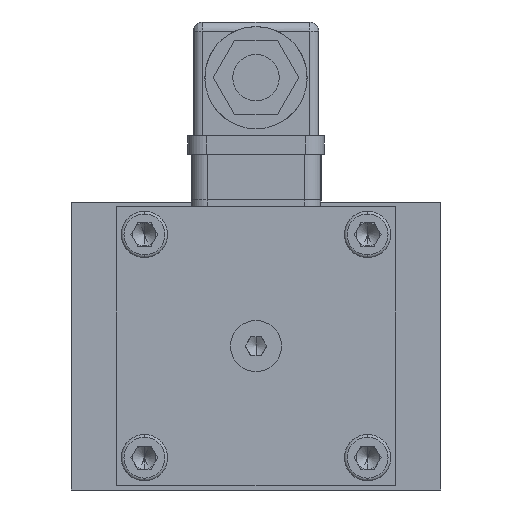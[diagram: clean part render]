
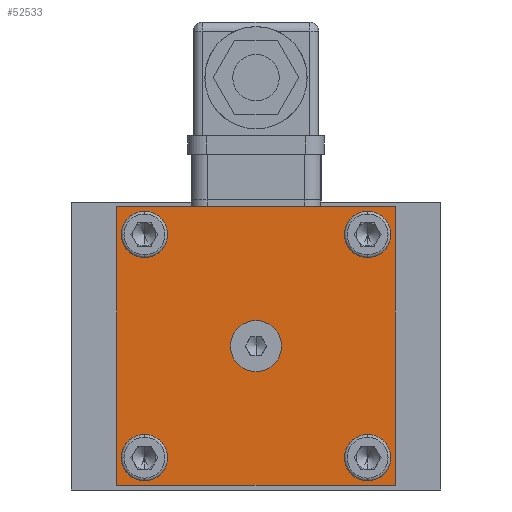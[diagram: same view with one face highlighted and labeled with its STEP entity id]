
A CAD part, left-side view. The second image highlights one B-rep face of the part: STEP entity #52533.
In plain terms, the highlighted planar face has unit normal (-1, 0, 0).
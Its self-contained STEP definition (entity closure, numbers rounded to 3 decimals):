
#887 = VERTEX_POINT ( 'NONE', #23626 ) ;
#977 = LINE ( 'NONE', #20642, #52979 ) ;
#1069 = PLANE ( 'NONE',  #30435 ) ;
#1115 = CARTESIAN_POINT ( 'NONE',  ( -81.2, -24.04, 29.04 ) ) ;
#1245 = DIRECTION ( 'NONE',  ( -1., 0., 0. ) ) ;
#1309 = CIRCLE ( 'NONE', #29121, 5. ) ;
#1677 = DIRECTION ( 'NONE',  ( 0., 0., 1. ) ) ;
#1744 = DIRECTION ( 'NONE',  ( -1., 0., 0. ) ) ;
#1845 = CARTESIAN_POINT ( 'NONE',  ( -81.2, 24.04, 24.04 ) ) ;
#2092 = ORIENTED_EDGE ( 'NONE', *, *, #49094, .F. ) ;
#2548 = CARTESIAN_POINT ( 'NONE',  ( -81.2, 24.04, -24.04 ) ) ;
#4078 = EDGE_CURVE ( 'NONE', #24456, #25340, #11782, .T. ) ;
#4896 = VERTEX_POINT ( 'NONE', #44130 ) ;
#5622 = CARTESIAN_POINT ( 'NONE',  ( -81.2, 30., 30. ) ) ;
#6717 = ORIENTED_EDGE ( 'NONE', *, *, #26818, .F. ) ;
#7758 = VERTEX_POINT ( 'NONE', #17593 ) ;
#7973 = DIRECTION ( 'NONE',  ( 0., 0., -1. ) ) ;
#8151 = DIRECTION ( 'NONE',  ( 0., 0., 1. ) ) ;
#8856 = VERTEX_POINT ( 'NONE', #1115 ) ;
#8898 = FACE_OUTER_BOUND ( 'NONE', #39221, .T. ) ;
#10232 = CIRCLE ( 'NONE', #19921, 5. ) ;
#10593 = ORIENTED_EDGE ( 'NONE', *, *, #11767, .F. ) ;
#11303 = EDGE_CURVE ( 'NONE', #16255, #17474, #40933, .T. ) ;
#11517 = DIRECTION ( 'NONE',  ( -1., 0., 0. ) ) ;
#11767 = EDGE_CURVE ( 'NONE', #25340, #24456, #29941, .T. ) ;
#11782 = CIRCLE ( 'NONE', #19498, 5.5 ) ;
#11959 = EDGE_LOOP ( 'NONE', ( #48382, #16177 ) ) ;
#13035 = ORIENTED_EDGE ( 'NONE', *, *, #4078, .F. ) ;
#13056 = CARTESIAN_POINT ( 'NONE',  ( -81.2, 24.04, -29.04 ) ) ;
#13232 = LINE ( 'NONE', #45759, #24120 ) ;
#13940 = AXIS2_PLACEMENT_3D ( 'NONE', #1845, #1744, #1677 ) ;
#14715 = CARTESIAN_POINT ( 'NONE',  ( -81.2, 24.04, 29.04 ) ) ;
#15074 = CIRCLE ( 'NONE', #50277, 5. ) ;
#15148 = LINE ( 'NONE', #26915, #46630 ) ;
#15350 = EDGE_CURVE ( 'NONE', #21363, #40925, #27903, .T. ) ;
#16177 = ORIENTED_EDGE ( 'NONE', *, *, #18520, .F. ) ;
#16255 = VERTEX_POINT ( 'NONE', #47871 ) ;
#17474 = VERTEX_POINT ( 'NONE', #13056 ) ;
#17593 = CARTESIAN_POINT ( 'NONE',  ( -81.2, -24.04, 19.04 ) ) ;
#17621 = CARTESIAN_POINT ( 'NONE',  ( -81.2, -24.04, 24.04 ) ) ;
#18168 = AXIS2_PLACEMENT_3D ( 'NONE', #22852, #22801, #22747 ) ;
#18278 = EDGE_CURVE ( 'NONE', #887, #22322, #13232, .T. ) ;
#18520 = EDGE_CURVE ( 'NONE', #17474, #16255, #15074, .T. ) ;
#19498 = AXIS2_PLACEMENT_3D ( 'NONE', #40945, #40877, #40836 ) ;
#19529 = EDGE_CURVE ( 'NONE', #27819, #25718, #49957, .T. ) ;
#19558 = DIRECTION ( 'NONE',  ( -1., 0., 0. ) ) ;
#19849 = FACE_BOUND ( 'NONE', #40812, .T. ) ;
#19921 = AXIS2_PLACEMENT_3D ( 'NONE', #36071, #35359, #34964 ) ;
#19967 = CIRCLE ( 'NONE', #25734, 5. ) ;
#20546 = EDGE_CURVE ( 'NONE', #4896, #887, #29044, .T. ) ;
#20599 = DIRECTION ( 'NONE',  ( 0., 0., -1. ) ) ;
#20642 = CARTESIAN_POINT ( 'NONE',  ( -81.2, -30., 30. ) ) ;
#20789 = VERTEX_POINT ( 'NONE', #50351 ) ;
#20856 = ORIENTED_EDGE ( 'NONE', *, *, #19529, .F. ) ;
#20871 = EDGE_CURVE ( 'NONE', #7758, #8856, #19967, .T. ) ;
#21198 = AXIS2_PLACEMENT_3D ( 'NONE', #23064, #23056, #23000 ) ;
#21266 = EDGE_CURVE ( 'NONE', #40925, #21363, #10232, .T. ) ;
#21363 = VERTEX_POINT ( 'NONE', #14715 ) ;
#21735 = DIRECTION ( 'NONE',  ( 0., 0., 1. ) ) ;
#22086 = CARTESIAN_POINT ( 'NONE',  ( -81.2, 0., 5.5 ) ) ;
#22292 = AXIS2_PLACEMENT_3D ( 'NONE', #17621, #46318, #21735 ) ;
#22322 = VERTEX_POINT ( 'NONE', #31624 ) ;
#22504 = EDGE_CURVE ( 'NONE', #4896, #20789, #15148, .T. ) ;
#22519 = DIRECTION ( 'NONE',  ( -1., 0., 0. ) ) ;
#22747 = DIRECTION ( 'NONE',  ( 0., 0., 1. ) ) ;
#22789 = EDGE_LOOP ( 'NONE', ( #39491, #44607 ) ) ;
#22801 = DIRECTION ( 'NONE',  ( -1., 0., 0. ) ) ;
#22852 = CARTESIAN_POINT ( 'NONE',  ( -81.2, 0., 0. ) ) ;
#23000 = DIRECTION ( 'NONE',  ( 0., 0., 1. ) ) ;
#23056 = DIRECTION ( 'NONE',  ( -1., 0., 0. ) ) ;
#23064 = CARTESIAN_POINT ( 'NONE',  ( -81.2, -24.04, -24.04 ) ) ;
#23626 = CARTESIAN_POINT ( 'NONE',  ( -81.2, 30., -30. ) ) ;
#24120 = VECTOR ( 'NONE', #51127, 1000. ) ;
#24456 = VERTEX_POINT ( 'NONE', #40779 ) ;
#25340 = VERTEX_POINT ( 'NONE', #22086 ) ;
#25718 = VERTEX_POINT ( 'NONE', #53056 ) ;
#25734 = AXIS2_PLACEMENT_3D ( 'NONE', #39552, #11517, #29719 ) ;
#25851 = CARTESIAN_POINT ( 'NONE',  ( -81.2, 30., 30. ) ) ;
#26741 = DIRECTION ( 'NONE',  ( 0., -1., 0. ) ) ;
#26818 = EDGE_CURVE ( 'NONE', #20789, #22322, #977, .T. ) ;
#26915 = CARTESIAN_POINT ( 'NONE',  ( -81.2, 30., 30. ) ) ;
#27138 = CARTESIAN_POINT ( 'NONE',  ( -81.2, -24.04, -29.04 ) ) ;
#27819 = VERTEX_POINT ( 'NONE', #27138 ) ;
#27903 = CIRCLE ( 'NONE', #13940, 5. ) ;
#29044 = LINE ( 'NONE', #5622, #41243 ) ;
#29121 = AXIS2_PLACEMENT_3D ( 'NONE', #44167, #19558, #48285 ) ;
#29478 = FACE_BOUND ( 'NONE', #49681, .T. ) ;
#29719 = DIRECTION ( 'NONE',  ( 0., 0., 1. ) ) ;
#29773 = ORIENTED_EDGE ( 'NONE', *, *, #15350, .F. ) ;
#29941 = CIRCLE ( 'NONE', #18168, 5.5 ) ;
#30004 = DIRECTION ( 'NONE',  ( 0., 0., -1. ) ) ;
#30435 = AXIS2_PLACEMENT_3D ( 'NONE', #25851, #1245, #30004 ) ;
#30792 = FACE_BOUND ( 'NONE', #44159, .T. ) ;
#31624 = CARTESIAN_POINT ( 'NONE',  ( -81.2, -30., -30. ) ) ;
#32470 = DIRECTION ( 'NONE',  ( 0., 0., 1. ) ) ;
#32514 = DIRECTION ( 'NONE',  ( -1., 0., 0. ) ) ;
#32576 = CARTESIAN_POINT ( 'NONE',  ( -81.2, 24.04, -24.04 ) ) ;
#33077 = EDGE_CURVE ( 'NONE', #8856, #7758, #34153, .T. ) ;
#34153 = CIRCLE ( 'NONE', #22292, 5. ) ;
#34964 = DIRECTION ( 'NONE',  ( 0., 0., 1. ) ) ;
#35359 = DIRECTION ( 'NONE',  ( -1., 0., 0. ) ) ;
#36071 = CARTESIAN_POINT ( 'NONE',  ( -81.2, 24.04, 24.04 ) ) ;
#37711 = AXIS2_PLACEMENT_3D ( 'NONE', #32576, #32514, #32470 ) ;
#39221 = EDGE_LOOP ( 'NONE', ( #6717, #39965, #49586, #50891 ) ) ;
#39491 = ORIENTED_EDGE ( 'NONE', *, *, #33077, .F. ) ;
#39552 = CARTESIAN_POINT ( 'NONE',  ( -81.2, -24.04, 24.04 ) ) ;
#39965 = ORIENTED_EDGE ( 'NONE', *, *, #22504, .F. ) ;
#40779 = CARTESIAN_POINT ( 'NONE',  ( -81.2, 0., -5.5 ) ) ;
#40812 = EDGE_LOOP ( 'NONE', ( #29773, #50417 ) ) ;
#40836 = DIRECTION ( 'NONE',  ( 0., 0., 1. ) ) ;
#40877 = DIRECTION ( 'NONE',  ( -1., 0., 0. ) ) ;
#40925 = VERTEX_POINT ( 'NONE', #47035 ) ;
#40933 = CIRCLE ( 'NONE', #37711, 5. ) ;
#40945 = CARTESIAN_POINT ( 'NONE',  ( -81.2, 0., 0. ) ) ;
#41243 = VECTOR ( 'NONE', #7973, 1000. ) ;
#41691 = FACE_BOUND ( 'NONE', #11959, .T. ) ;
#44130 = CARTESIAN_POINT ( 'NONE',  ( -81.2, 30., 30. ) ) ;
#44159 = EDGE_LOOP ( 'NONE', ( #10593, #13035 ) ) ;
#44167 = CARTESIAN_POINT ( 'NONE',  ( -81.2, -24.04, -24.04 ) ) ;
#44607 = ORIENTED_EDGE ( 'NONE', *, *, #20871, .F. ) ;
#45759 = CARTESIAN_POINT ( 'NONE',  ( -81.2, 30., -30. ) ) ;
#46318 = DIRECTION ( 'NONE',  ( -1., 0., 0. ) ) ;
#46630 = VECTOR ( 'NONE', #26741, 1000. ) ;
#47035 = CARTESIAN_POINT ( 'NONE',  ( -81.2, 24.04, 19.04 ) ) ;
#47871 = CARTESIAN_POINT ( 'NONE',  ( -81.2, 24.04, -19.04 ) ) ;
#48285 = DIRECTION ( 'NONE',  ( 0., 0., 1. ) ) ;
#48382 = ORIENTED_EDGE ( 'NONE', *, *, #11303, .F. ) ;
#49094 = EDGE_CURVE ( 'NONE', #25718, #27819, #1309, .T. ) ;
#49586 = ORIENTED_EDGE ( 'NONE', *, *, #20546, .T. ) ;
#49681 = EDGE_LOOP ( 'NONE', ( #2092, #20856 ) ) ;
#49957 = CIRCLE ( 'NONE', #21198, 5. ) ;
#50277 = AXIS2_PLACEMENT_3D ( 'NONE', #2548, #22519, #8151 ) ;
#50351 = CARTESIAN_POINT ( 'NONE',  ( -81.2, -30., 30. ) ) ;
#50417 = ORIENTED_EDGE ( 'NONE', *, *, #21266, .F. ) ;
#50891 = ORIENTED_EDGE ( 'NONE', *, *, #18278, .T. ) ;
#51127 = DIRECTION ( 'NONE',  ( 0., -1., 0. ) ) ;
#52533 = ADVANCED_FACE ( 'NONE', ( #30792, #19849, #52593, #8898, #41691, #29478 ), #1069, .T. ) ;
#52593 = FACE_BOUND ( 'NONE', #22789, .T. ) ;
#52979 = VECTOR ( 'NONE', #20599, 1000. ) ;
#53056 = CARTESIAN_POINT ( 'NONE',  ( -81.2, -24.04, -19.04 ) ) ;
